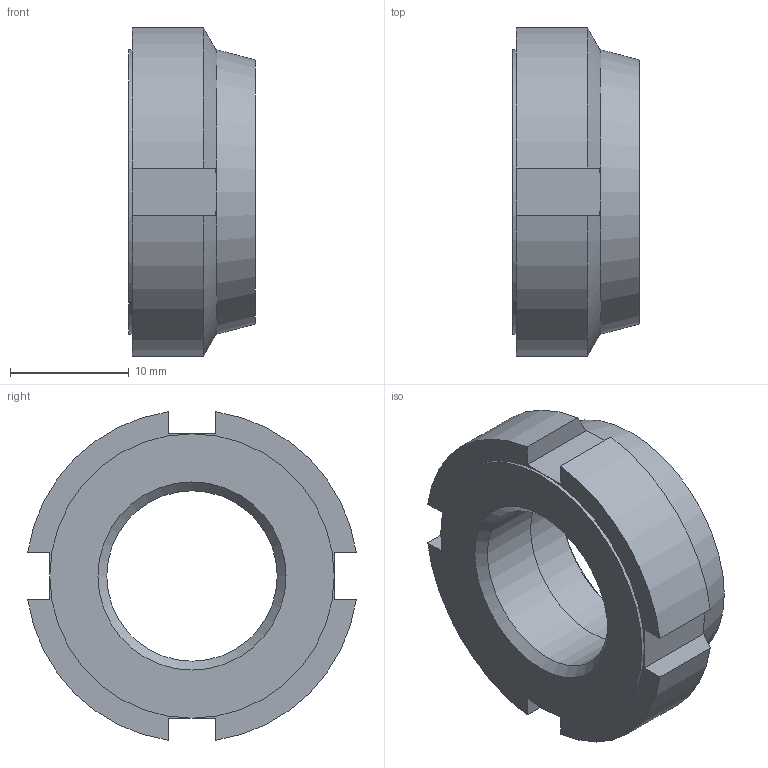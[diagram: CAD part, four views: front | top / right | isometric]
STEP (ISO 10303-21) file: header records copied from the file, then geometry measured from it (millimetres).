
FILE_DESCRIPTION( ( 'STEP AP203' ), '1' );
FILE_NAME( 'C:/Temp/Ganter_Step_05_03_2020/data/3_2/gn1804_1/Slotted locknut self-locking GN 1804.1-M16x1,5.stp', '2020-03-13T05:25:14', ( 'License CC BY-ND 4.0' ), ( 'CADENAS' ), ' ', 'PARTsolutions', ' ' );
FILE_SCHEMA( ( 'CONFIG_CONTROL_DESIGN' ) );
Length unit declared in the file: millimetre
Products named in the file (1): _Slotted locknut self-locking GN 1804.1-M16x1,5
Bounding box: 10.7 x 27.71 x 27.71 mm (x, y, z)
Volume: 3753.5 mm3; surface area: 2188.2 mm2
Topology: 1 solids, 1 shells, 34 faces, 79 edges, 49 vertices
Faces by surface type: plane 20, cylinder 8, cone 6
Full cylindrical faces by diameter (mm): 14.376 x1, 14.9 x1, 17 x1, 24 x1
Entity records: 994 total; most frequent: CARTESIAN_POINT 205, DIRECTION 152, ORIENTED_EDGE 146, EDGE_CURVE 73, AXIS2_PLACEMENT_3D 60, VERTEX_POINT 49, EDGE_LOOP 44, FACE_OUTER_BOUND 38
